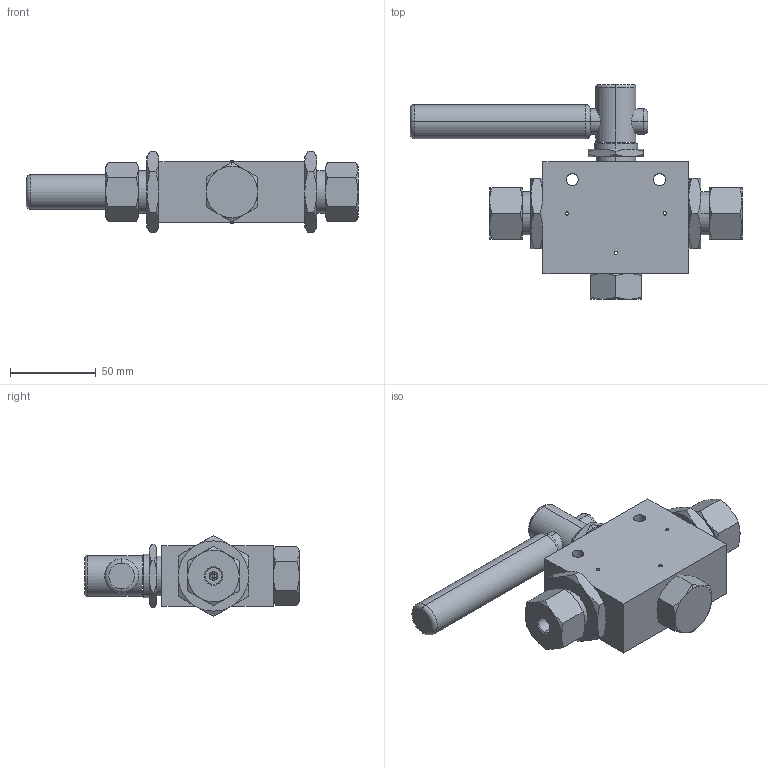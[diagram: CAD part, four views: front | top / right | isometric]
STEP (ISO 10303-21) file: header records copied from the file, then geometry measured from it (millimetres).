
FILE_DESCRIPTION (( 'STEP AP203' ), '1' );
FILE_NAME ('BV1505S02-2-90.STEP', '2022-04-07T09:56:58', ( '' ), ( '' ), 'SwSTEP 2.0', 'SolidWorks 2020', '' );
FILE_SCHEMA (( 'CONFIG_CONTROL_DESIGN' ));
Length unit declared in the file: millimetre
Products named in the file (1): BV1505S02-2-90
Bounding box: 193.5 x 125 x 47.34 mm (x, y, z)
Volume: 310664.9 mm3; surface area: 46502 mm2
Topology: 1 solids, 1 shells, 206 faces, 454 edges, 268 vertices
Faces by surface type: cone 86, plane 68, cylinder 44, torus 8
Entity records: 6551 total; most frequent: CARTESIAN_POINT 2085, ORIENTED_EDGE 908, DIRECTION 904, EDGE_CURVE 454, AXIS2_PLACEMENT_3D 395, VERTEX_POINT 268, EDGE_LOOP 238, FACE_OUTER_BOUND 206
